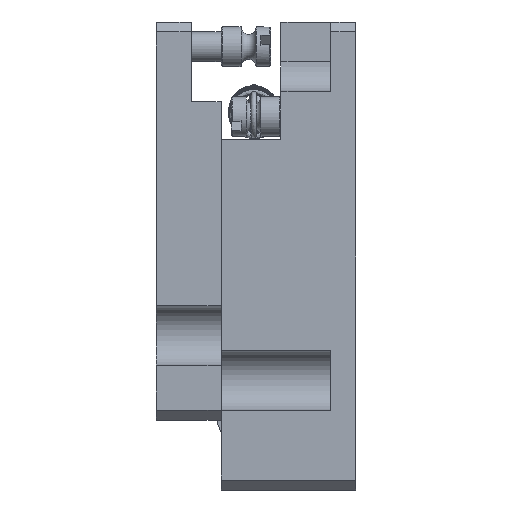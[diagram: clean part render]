
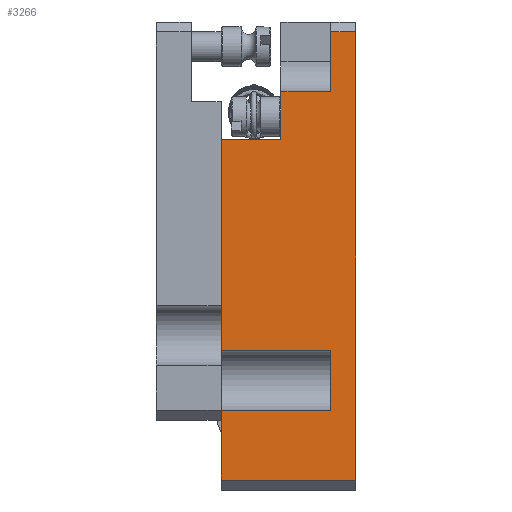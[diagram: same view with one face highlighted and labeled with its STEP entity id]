
A CAD part, left-side view. The second image highlights one B-rep face of the part: STEP entity #3266.
In plain terms, the highlighted planar face has unit normal (-1, 0, 0).
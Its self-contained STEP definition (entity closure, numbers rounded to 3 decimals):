
#402 = LINE ( 'NONE', #11092, #48636 ) ;
#471 = LINE ( 'NONE', #16019, #12402 ) ;
#2031 = ORIENTED_EDGE ( 'NONE', *, *, #9599, .F. ) ;
#2782 = VECTOR ( 'NONE', #44359, 1000. ) ;
#3266 = ADVANCED_FACE ( 'NONE', ( #13431 ), #55462, .T. ) ;
#3336 = VECTOR ( 'NONE', #45384, 1000. ) ;
#3374 = ORIENTED_EDGE ( 'NONE', *, *, #18676, .T. ) ;
#4297 = CARTESIAN_POINT ( 'NONE',  ( -20.874, 0.257, -19.377 ) ) ;
#4997 = ORIENTED_EDGE ( 'NONE', *, *, #18280, .T. ) ;
#5000 = CARTESIAN_POINT ( 'NONE',  ( -20.874, -5.743, 7.823 ) ) ;
#5574 = DIRECTION ( 'NONE',  ( 0., 0., 1. ) ) ;
#5950 = VERTEX_POINT ( 'NONE', #14499 ) ;
#8254 = CARTESIAN_POINT ( 'NONE',  ( -20.874, -13.243, -27.377 ) ) ;
#9599 = EDGE_CURVE ( 'NONE', #46251, #60318, #64679, .T. ) ;
#11092 = CARTESIAN_POINT ( 'NONE',  ( -20.874, -13.243, -27.377 ) ) ;
#11565 = EDGE_CURVE ( 'NONE', #29964, #46251, #38434, .T. ) ;
#12402 = VECTOR ( 'NONE', #51839, 1000. ) ;
#13431 = FACE_OUTER_BOUND ( 'NONE', #37139, .T. ) ;
#13809 = DIRECTION ( 'NONE',  ( 0., 0., 1. ) ) ;
#14499 = CARTESIAN_POINT ( 'NONE',  ( -20.874, 0.257, -26.377 ) ) ;
#16019 = CARTESIAN_POINT ( 'NONE',  ( -20.874, -10.743, -19.377 ) ) ;
#17490 = CARTESIAN_POINT ( 'NONE',  ( -20.874, 0.257, -27.377 ) ) ;
#18280 = EDGE_CURVE ( 'NONE', #44859, #21272, #402, .T. ) ;
#18676 = EDGE_CURVE ( 'NONE', #40774, #40732, #21685, .T. ) ;
#19334 = ORIENTED_EDGE ( 'NONE', *, *, #19920, .F. ) ;
#19460 = CARTESIAN_POINT ( 'NONE',  ( -20.874, 6.257, 7.823 ) ) ;
#19903 = VECTOR ( 'NONE', #42090, 1000. ) ;
#19920 = EDGE_CURVE ( 'NONE', #22800, #59071, #29003, .T. ) ;
#19977 = EDGE_CURVE ( 'NONE', #5950, #44859, #36217, .T. ) ;
#21272 = VERTEX_POINT ( 'NONE', #45957 ) ;
#21352 = AXIS2_PLACEMENT_3D ( 'NONE', #8254, #45123, #61308 ) ;
#21685 = LINE ( 'NONE', #31030, #33264 ) ;
#22384 = VERTEX_POINT ( 'NONE', #4297 ) ;
#22588 = CARTESIAN_POINT ( 'NONE',  ( -20.874, -10.743, -13.377 ) ) ;
#22800 = VERTEX_POINT ( 'NONE', #38953 ) ;
#23170 = CARTESIAN_POINT ( 'NONE',  ( -20.874, -10.743, 18.623 ) ) ;
#24707 = VECTOR ( 'NONE', #26832, 1000. ) ;
#25612 = EDGE_CURVE ( 'NONE', #5950, #22384, #28495, .T. ) ;
#26054 = CARTESIAN_POINT ( 'NONE',  ( -20.874, -10.743, -13.377 ) ) ;
#26133 = ORIENTED_EDGE ( 'NONE', *, *, #35351, .T. ) ;
#26832 = DIRECTION ( 'NONE',  ( 0., 1., 0. ) ) ;
#27705 = LINE ( 'NONE', #54575, #46628 ) ;
#28495 = LINE ( 'NONE', #65366, #3336 ) ;
#29003 = LINE ( 'NONE', #40380, #49587 ) ;
#29099 = EDGE_CURVE ( 'NONE', #60318, #40732, #35300, .T. ) ;
#29952 = ORIENTED_EDGE ( 'NONE', *, *, #29099, .F. ) ;
#29964 = VERTEX_POINT ( 'NONE', #26054 ) ;
#30488 = DIRECTION ( 'NONE',  ( 0., -1., 0. ) ) ;
#30873 = CARTESIAN_POINT ( 'NONE',  ( -20.874, -5.743, 12.623 ) ) ;
#31030 = CARTESIAN_POINT ( 'NONE',  ( -20.874, -5.743, 27.823 ) ) ;
#33264 = VECTOR ( 'NONE', #37185, 1000. ) ;
#35300 = LINE ( 'NONE', #19460, #55659 ) ;
#35351 = EDGE_CURVE ( 'NONE', #21272, #59071, #52000, .T. ) ;
#35413 = VECTOR ( 'NONE', #13809, 1000. ) ;
#36217 = LINE ( 'NONE', #67245, #19903 ) ;
#37139 = EDGE_LOOP ( 'NONE', ( #3374, #29952, #2031, #68182, #59852, #37627, #45000, #57143, #4997, #26133, #19334, #42597 ) ) ;
#37185 = DIRECTION ( 'NONE',  ( 0., 0., -1. ) ) ;
#37627 = ORIENTED_EDGE ( 'NONE', *, *, #44600, .T. ) ;
#38434 = LINE ( 'NONE', #22588, #58965 ) ;
#38953 = CARTESIAN_POINT ( 'NONE',  ( -20.874, -10.743, 12.623 ) ) ;
#40105 = CARTESIAN_POINT ( 'NONE',  ( -20.874, 0.257, -13.377 ) ) ;
#40380 = CARTESIAN_POINT ( 'NONE',  ( -20.874, -10.743, 12.623 ) ) ;
#40732 = VERTEX_POINT ( 'NONE', #5000 ) ;
#40774 = VERTEX_POINT ( 'NONE', #30873 ) ;
#42084 = CARTESIAN_POINT ( 'NONE',  ( -20.874, 0.257, 7.823 ) ) ;
#42090 = DIRECTION ( 'NONE',  ( 0., -1., 0. ) ) ;
#42597 = ORIENTED_EDGE ( 'NONE', *, *, #55375, .F. ) ;
#44359 = DIRECTION ( 'NONE',  ( 0., 0., 1. ) ) ;
#44600 = EDGE_CURVE ( 'NONE', #55062, #22384, #471, .T. ) ;
#44859 = VERTEX_POINT ( 'NONE', #54111 ) ;
#45000 = ORIENTED_EDGE ( 'NONE', *, *, #25612, .F. ) ;
#45123 = DIRECTION ( 'NONE',  ( -1., 0., 0. ) ) ;
#45181 = DIRECTION ( 'NONE',  ( 0., 0., 1. ) ) ;
#45384 = DIRECTION ( 'NONE',  ( 0., 0., 1. ) ) ;
#45957 = CARTESIAN_POINT ( 'NONE',  ( -20.874, -13.243, 18.623 ) ) ;
#46251 = VERTEX_POINT ( 'NONE', #40105 ) ;
#46367 = CARTESIAN_POINT ( 'NONE',  ( -20.874, -10.743, -19.377 ) ) ;
#46628 = VECTOR ( 'NONE', #48719, 1000. ) ;
#47155 = EDGE_CURVE ( 'NONE', #55062, #29964, #60635, .T. ) ;
#48636 = VECTOR ( 'NONE', #5574, 1000. ) ;
#48719 = DIRECTION ( 'NONE',  ( 0., -1., 0. ) ) ;
#49587 = VECTOR ( 'NONE', #45181, 1000. ) ;
#51839 = DIRECTION ( 'NONE',  ( 0., 1., 0. ) ) ;
#52000 = LINE ( 'NONE', #53015, #24707 ) ;
#53015 = CARTESIAN_POINT ( 'NONE',  ( -20.874, -13.243, 18.623 ) ) ;
#54111 = CARTESIAN_POINT ( 'NONE',  ( -20.874, -13.243, -26.377 ) ) ;
#54575 = CARTESIAN_POINT ( 'NONE',  ( -20.874, 0.257, 12.623 ) ) ;
#55062 = VERTEX_POINT ( 'NONE', #46367 ) ;
#55375 = EDGE_CURVE ( 'NONE', #40774, #22800, #27705, .T. ) ;
#55462 = PLANE ( 'NONE',  #21352 ) ;
#55659 = VECTOR ( 'NONE', #30488, 1000. ) ;
#57143 = ORIENTED_EDGE ( 'NONE', *, *, #19977, .T. ) ;
#58965 = VECTOR ( 'NONE', #65301, 1000. ) ;
#59071 = VERTEX_POINT ( 'NONE', #23170 ) ;
#59852 = ORIENTED_EDGE ( 'NONE', *, *, #47155, .F. ) ;
#60294 = CARTESIAN_POINT ( 'NONE',  ( -20.874, -10.743, -19.377 ) ) ;
#60318 = VERTEX_POINT ( 'NONE', #42084 ) ;
#60635 = LINE ( 'NONE', #60294, #35413 ) ;
#61308 = DIRECTION ( 'NONE',  ( 0., 0., 1. ) ) ;
#64679 = LINE ( 'NONE', #17490, #2782 ) ;
#65301 = DIRECTION ( 'NONE',  ( 0., 1., 0. ) ) ;
#65366 = CARTESIAN_POINT ( 'NONE',  ( -20.874, 0.257, -27.377 ) ) ;
#67245 = CARTESIAN_POINT ( 'NONE',  ( -20.874, -13.243, -26.377 ) ) ;
#68182 = ORIENTED_EDGE ( 'NONE', *, *, #11565, .F. ) ;
